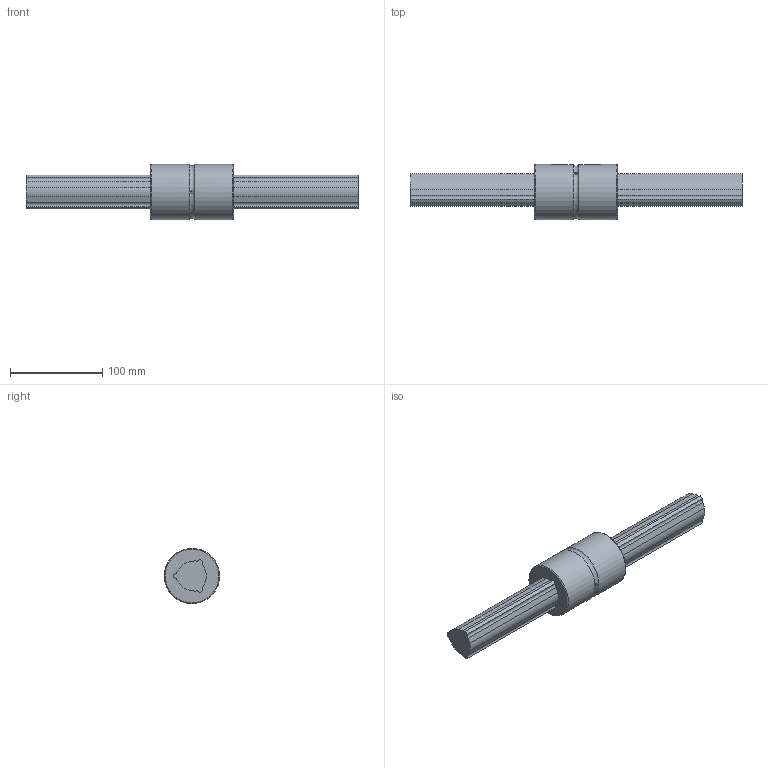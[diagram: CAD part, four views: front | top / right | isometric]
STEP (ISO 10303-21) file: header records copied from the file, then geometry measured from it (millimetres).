
FILE_DESCRIPTION(/* description */ ('STEP AP203'),/* implementation_level */ '2;1');
FILE_NAME(/* name */ 'LBS40+360L(901350)',/* time_stamp */ '2024-05-23T11:58:32+02:00',/* author */ ('License CC BY-ND 4.0'),/* organization */ ('CADENAS'),/* preprocessor_version */ 'ST-DEVELOPER v19.3',/* originating_system */ 'PARTsolutions',/* authorisation */ ' ');
FILE_SCHEMA (('CONFIG_CONTROL_DESIGN'));
Length unit declared in the file: millimetre
Products named in the file (3): LBS40+360L(901350); LBS40 Nut; LBS401360 Spline Shaft
Assembly tree (2 placements, depth 2):
  LBS40+360L(901350)
    LBS40 Nut
    LBS401360 Spline Shaft
Bounding box: 360 x 60 x 60 mm (x, y, z)
Volume: 482062.5 mm3; surface area: 75444.4 mm2
Topology: 3 solids, 3 shells, 57 faces, 148 edges, 99 vertices
Faces by surface type: cylinder 31, plane 22, torus 4
Full cylindrical faces by diameter (mm): 3 x3, 60 x2
Entity records: 1796 total; most frequent: CARTESIAN_POINT 341, DIRECTION 306, ORIENTED_EDGE 272, EDGE_CURVE 136, AXIS2_PLACEMENT_3D 118, VERTEX_POINT 94, LINE 70, VECTOR 70
